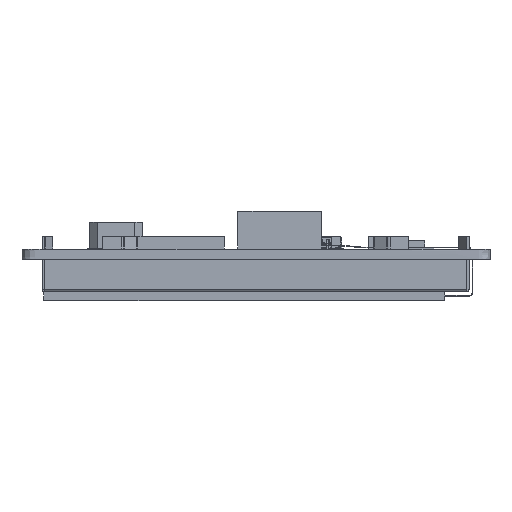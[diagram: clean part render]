
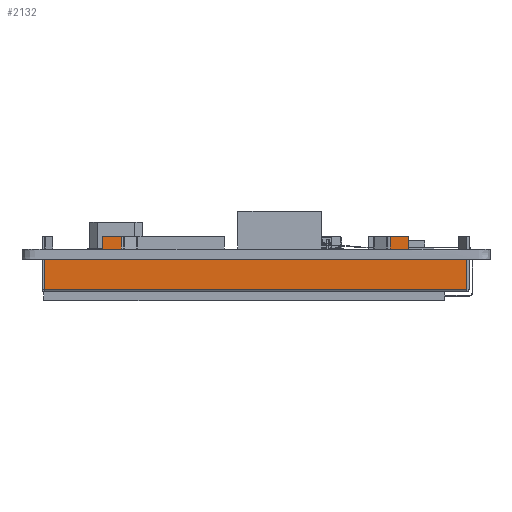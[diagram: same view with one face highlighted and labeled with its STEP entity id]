
A CAD part, left-side view. The second image highlights one B-rep face of the part: STEP entity #2132.
In plain terms, the highlighted planar face has unit normal (-1, 0, 0).
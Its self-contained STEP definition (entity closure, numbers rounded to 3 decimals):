
#2132=ADVANCED_FACE('',(#4301),#3363,.F.);
#3363=PLANE('',#25279);
#4301=FACE_OUTER_BOUND('',#5501,.T.);
#5501=EDGE_LOOP('',(#6900,#6901,#6902,#6903,#6904,#6905,#6906,#6907,#6908,
#6909,#6910,#6911,#6912,#6913,#6914,#6915));
#6900=ORIENTED_EDGE('',*,*,#16077,.T.);
#6901=ORIENTED_EDGE('',*,*,#16078,.F.);
#6902=ORIENTED_EDGE('',*,*,#16079,.F.);
#6903=ORIENTED_EDGE('',*,*,#16080,.T.);
#6904=ORIENTED_EDGE('',*,*,#16081,.T.);
#6905=ORIENTED_EDGE('',*,*,#16082,.T.);
#6906=ORIENTED_EDGE('',*,*,#16075,.T.);
#6907=ORIENTED_EDGE('',*,*,#16083,.F.);
#6908=ORIENTED_EDGE('',*,*,#16084,.T.);
#6909=ORIENTED_EDGE('',*,*,#16085,.F.);
#6910=ORIENTED_EDGE('',*,*,#16086,.F.);
#6911=ORIENTED_EDGE('',*,*,#16087,.T.);
#6912=ORIENTED_EDGE('',*,*,#16069,.T.);
#6913=ORIENTED_EDGE('',*,*,#16088,.F.);
#6914=ORIENTED_EDGE('',*,*,#16089,.F.);
#6915=ORIENTED_EDGE('',*,*,#16090,.T.);
#13784=VERTEX_POINT('',#33686);
#13785=VERTEX_POINT('',#33687);
#13790=VERTEX_POINT('',#33698);
#13791=VERTEX_POINT('',#33700);
#13792=VERTEX_POINT('',#33704);
#13793=VERTEX_POINT('',#33705);
#13794=VERTEX_POINT('',#33707);
#13795=VERTEX_POINT('',#33709);
#13796=VERTEX_POINT('',#33711);
#13797=VERTEX_POINT('',#33713);
#13798=VERTEX_POINT('',#33716);
#13799=VERTEX_POINT('',#33718);
#13800=VERTEX_POINT('',#33720);
#13801=VERTEX_POINT('',#33722);
#13802=VERTEX_POINT('',#33725);
#13803=VERTEX_POINT('',#33727);
#16069=EDGE_CURVE('',#13784,#13785,#19545,.T.);
#16075=EDGE_CURVE('',#13791,#13790,#19551,.T.);
#16077=EDGE_CURVE('',#13792,#13793,#19553,.T.);
#16078=EDGE_CURVE('',#13794,#13793,#19554,.T.);
#16079=EDGE_CURVE('',#13795,#13794,#19555,.T.);
#16080=EDGE_CURVE('',#13795,#13796,#19556,.T.);
#16081=EDGE_CURVE('',#13796,#13797,#19557,.T.);
#16082=EDGE_CURVE('',#13797,#13791,#19558,.T.);
#16083=EDGE_CURVE('',#13798,#13790,#19559,.T.);
#16084=EDGE_CURVE('',#13798,#13799,#19560,.T.);
#16085=EDGE_CURVE('',#13800,#13799,#19561,.T.);
#16086=EDGE_CURVE('',#13801,#13800,#19562,.T.);
#16087=EDGE_CURVE('',#13801,#13784,#19563,.T.);
#16088=EDGE_CURVE('',#13802,#13785,#19564,.T.);
#16089=EDGE_CURVE('',#13803,#13802,#19565,.T.);
#16090=EDGE_CURVE('',#13803,#13792,#19566,.T.);
#19545=LINE('',#33685,#22423);
#19551=LINE('',#33699,#22429);
#19553=LINE('',#33703,#22431);
#19554=LINE('',#33706,#22432);
#19555=LINE('',#33708,#22433);
#19556=LINE('',#33710,#22434);
#19557=LINE('',#33712,#22435);
#19558=LINE('',#33714,#22436);
#19559=LINE('',#33715,#22437);
#19560=LINE('',#33717,#22438);
#19561=LINE('',#33719,#22439);
#19562=LINE('',#33721,#22440);
#19563=LINE('',#33723,#22441);
#19564=LINE('',#33724,#22442);
#19565=LINE('',#33726,#22443);
#19566=LINE('',#33728,#22444);
#22423=VECTOR('',#27159,1.);
#22429=VECTOR('',#27167,1.);
#22431=VECTOR('',#27171,1.);
#22432=VECTOR('',#27172,1.);
#22433=VECTOR('',#27173,1.);
#22434=VECTOR('',#27174,1.);
#22435=VECTOR('',#27175,1.);
#22436=VECTOR('',#27176,1.);
#22437=VECTOR('',#27177,1.);
#22438=VECTOR('',#27178,1.);
#22439=VECTOR('',#27179,1.);
#22440=VECTOR('',#27180,1.);
#22441=VECTOR('',#27181,1.);
#22442=VECTOR('',#27182,1.);
#22443=VECTOR('',#27183,1.);
#22444=VECTOR('',#27184,1.);
#25279=AXIS2_PLACEMENT_3D('',#33729,#27185,#27186);
#27159=DIRECTION('',(0.,1.,0.));
#27167=DIRECTION('',(0.,1.,0.));
#27171=DIRECTION('',(0.,1.,0.));
#27172=DIRECTION('',(0.,0.,-1.));
#27173=DIRECTION('',(0.,-1.,0.));
#27174=DIRECTION('',(0.,0.,-1.));
#27175=DIRECTION('',(0.,1.,0.));
#27176=DIRECTION('',(0.,0.,-1.));
#27177=DIRECTION('',(0.,0.,-1.));
#27178=DIRECTION('',(0.,-1.,0.));
#27179=DIRECTION('',(0.,0.,-1.));
#27180=DIRECTION('',(0.,-1.,0.));
#27181=DIRECTION('',(0.,0.,-1.));
#27182=DIRECTION('',(0.,0.,1.));
#27183=DIRECTION('',(0.,1.,0.));
#27184=DIRECTION('',(0.,0.,1.));
#27185=DIRECTION('',(1.,0.,0.));
#27186=DIRECTION('',(0.,1.,0.));
#33685=CARTESIAN_POINT('',(67.65,-14.395,-1.6));
#33686=CARTESIAN_POINT('',(67.65,43.765,-1.6));
#33687=CARTESIAN_POINT('',(67.65,53.005,-1.6));
#33698=CARTESIAN_POINT('',(67.65,40.765,-1.6));
#33699=CARTESIAN_POINT('',(67.65,-14.395,-1.6));
#33700=CARTESIAN_POINT('',(67.65,-2.155,-1.6));
#33703=CARTESIAN_POINT('',(67.65,-14.395,-1.6));
#33704=CARTESIAN_POINT('',(67.65,-14.395,-1.6));
#33705=CARTESIAN_POINT('',(67.65,-5.155,-1.6));
#33706=CARTESIAN_POINT('',(67.65,-5.155,0.));
#33707=CARTESIAN_POINT('',(67.65,-5.155,2.));
#33708=CARTESIAN_POINT('',(67.65,-2.19,2.));
#33709=CARTESIAN_POINT('',(67.65,-2.19,2.));
#33710=CARTESIAN_POINT('',(67.65,-2.19,2.));
#33711=CARTESIAN_POINT('',(67.65,-2.19,0.));
#33712=CARTESIAN_POINT('',(67.65,-5.155,0.));
#33713=CARTESIAN_POINT('',(67.65,-2.155,0.));
#33714=CARTESIAN_POINT('',(67.65,-2.155,0.));
#33715=CARTESIAN_POINT('',(67.65,40.765,0.));
#33716=CARTESIAN_POINT('',(67.65,40.765,0.));
#33717=CARTESIAN_POINT('',(67.65,43.765,0.));
#33718=CARTESIAN_POINT('',(67.65,40.754,0.));
#33719=CARTESIAN_POINT('',(67.65,40.754,2.));
#33720=CARTESIAN_POINT('',(67.65,40.754,2.));
#33721=CARTESIAN_POINT('',(67.65,43.765,2.));
#33722=CARTESIAN_POINT('',(67.65,43.765,2.));
#33723=CARTESIAN_POINT('',(67.65,43.765,0.));
#33724=CARTESIAN_POINT('',(67.65,53.005,-6.4));
#33725=CARTESIAN_POINT('',(67.65,53.005,-6.4));
#33726=CARTESIAN_POINT('',(67.65,-14.395,-6.4));
#33727=CARTESIAN_POINT('',(67.65,-14.395,-6.4));
#33728=CARTESIAN_POINT('',(67.65,-14.395,-6.4));
#33729=CARTESIAN_POINT('',(67.65,-14.395,-6.4));
